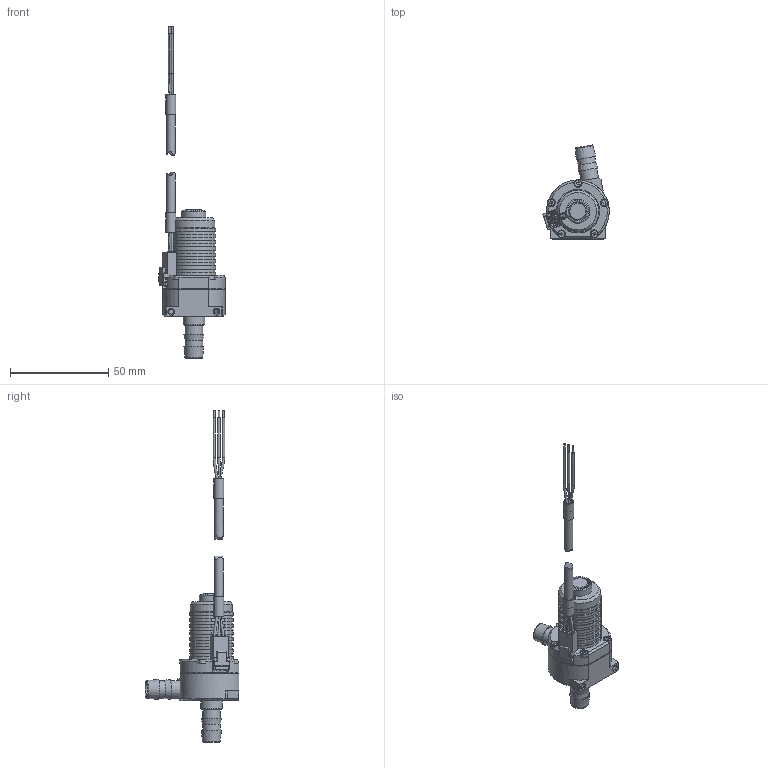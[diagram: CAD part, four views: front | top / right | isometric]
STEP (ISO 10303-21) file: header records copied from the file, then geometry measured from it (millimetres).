
FILE_DESCRIPTION (( 'STEP AP214' ), '1' );
FILE_NAME ('M510S-90-V REV 5.STEP', '2024-11-14T12:10:43', ( '' ), ( '' ), 'SwSTEP 2.0', 'SolidWorks 2023', '' );
FILE_SCHEMA (( 'AUTOMOTIVE_DESIGN' ));
Length unit declared in the file: millimetre
Products named in the file (1): M510S-90-V REV 5
Bounding box: 33.81 x 47.79 x 168.83 mm (x, y, z)
Surface area: 12963.1 mm2 (no closed solid volume)
Topology: 0 solids, 33 shells, 317 faces, 1186 edges, 897 vertices
Faces by surface type: plane 181, cylinder 76, cone 47, bspline 8, torus 5
Full cylindrical faces by diameter (mm): 0.8 x6, 1.2 x5, 2.5 x3, 3.8 x5, 4.2 x2, 4.3 x2, 5 x2, 7.8 x2, 9 x4, 9.8 x1, 11 x1, 12.2 x1, 21.3 x2, 22.1 x1
Entity records: 13012 total; most frequent: CARTESIAN_POINT 3389, DIRECTION 1992, ORIENTED_EDGE 1649, EDGE_CURVE 1089, VERTEX_POINT 872, LINE 686, VECTOR 686, AXIS2_PLACEMENT_3D 653
